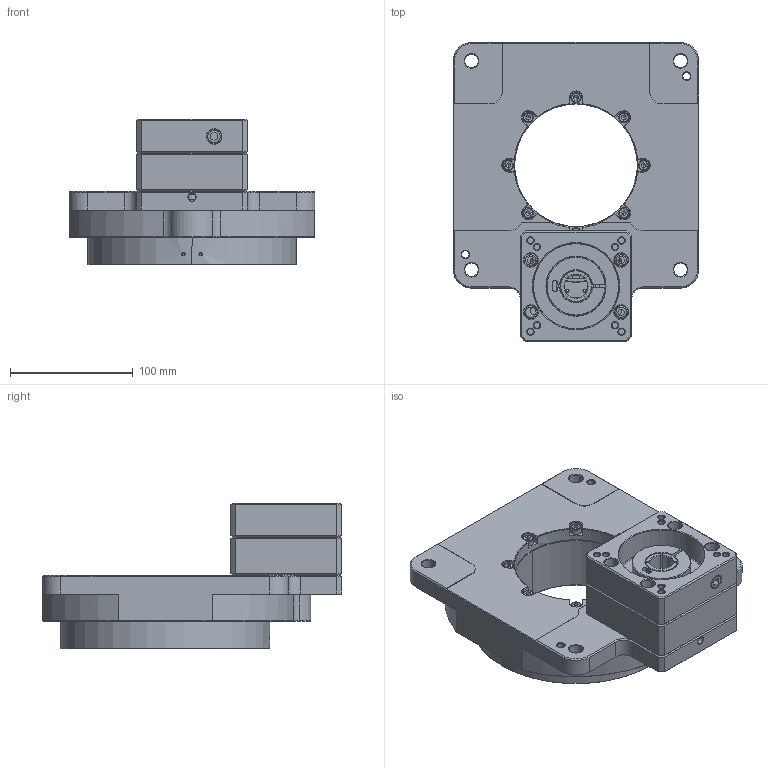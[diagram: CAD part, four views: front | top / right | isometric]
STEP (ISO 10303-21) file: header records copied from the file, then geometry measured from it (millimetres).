
FILE_DESCRIPTION (( 'STEP AP203' ), '1' );
FILE_NAME ('1.STEP', '2022-08-08T06:19:32', ( '' ), ( '' ), 'SwSTEP 2.0', 'SolidWorks 2020', '' );
FILE_SCHEMA (( 'CONFIG_CONTROL_DESIGN' ));
Length unit declared in the file: millimetre
Products named in the file (1): 1
Bounding box: 200 x 243.5 x 118.5 mm (x, y, z)
Surface area: 206578.6 mm2 (no closed solid volume)
Topology: 0 solids, 39 shells, 683 faces, 2248 edges, 1546 vertices
Faces by surface type: plane 294, cone 185, cylinder 168, torus 26, bspline 10
Entity records: 27972 total; most frequent: CARTESIAN_POINT 8471, DIRECTION 4121, ORIENTED_EDGE 3642, EDGE_CURVE 2234, VERTEX_POINT 1546, AXIS2_PLACEMENT_3D 1480, VECTOR 1161, LINE 1161
